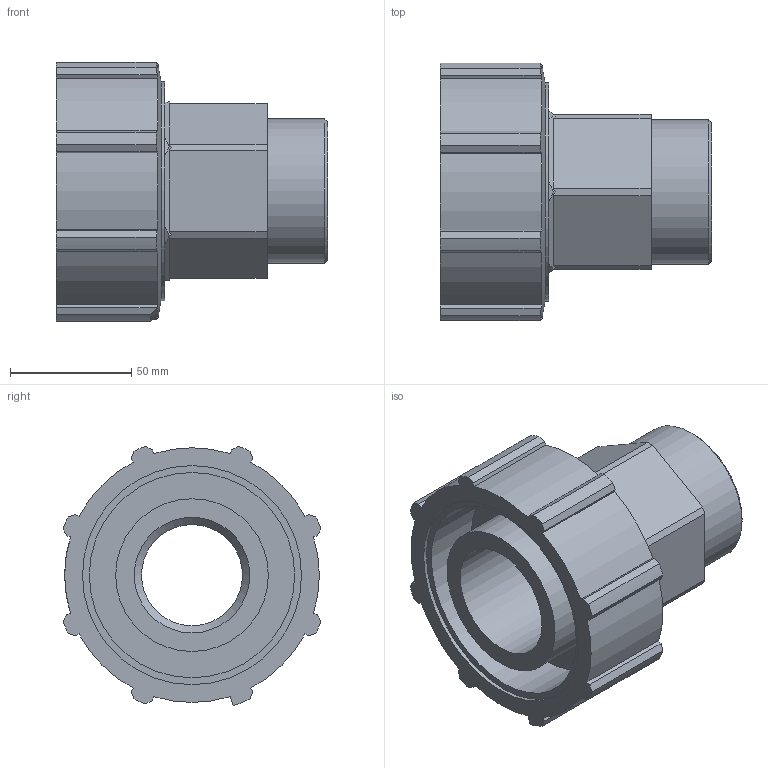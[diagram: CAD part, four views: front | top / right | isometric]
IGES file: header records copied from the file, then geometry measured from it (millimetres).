
Global section: file name: 072700063020_182700063020_72706063020.ipt; native system: Autodesk Inventor 2015; preprocessor: unknown; author: KIM; date: 20170606.172351; units: millimetre
Bounding box: 112 x 106.32 x 107.05 mm (x, y, z)
Volume: 348051 mm3; surface area: 79843.6 mm2
Topology: 1 solids, 1 shells, 92 faces, 258 edges, 174 vertices
Faces by surface type: plane 63, cylinder 20, revolution 6, cone 3
Full cylindrical faces by diameter (mm): 59.614 x1, 63 x1, 73.6 x1, 90.4 x1
